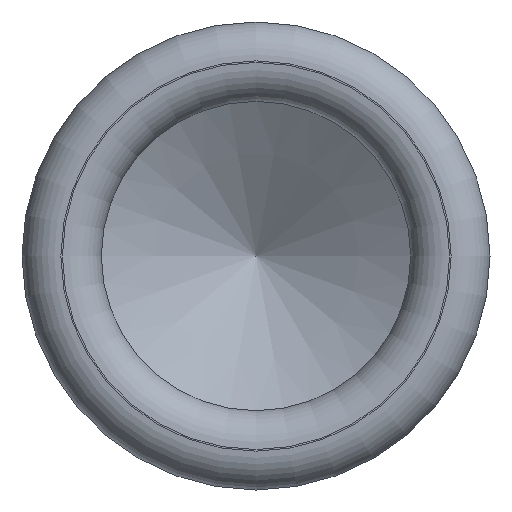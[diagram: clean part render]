
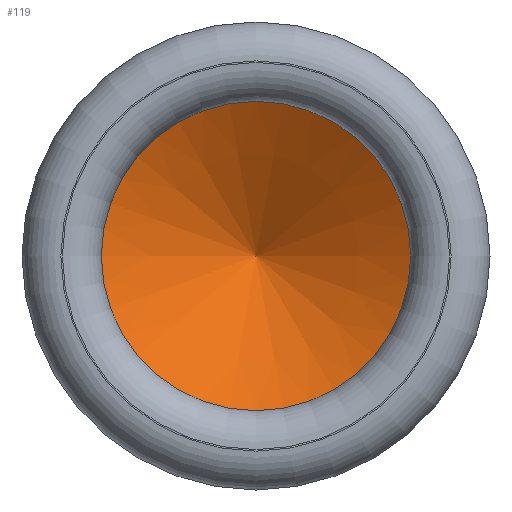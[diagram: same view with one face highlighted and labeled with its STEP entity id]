
A CAD part, left-side view. The second image highlights one B-rep face of the part: STEP entity #119.
In plain terms, the highlighted conical face has half-angle 59 degrees and reference radius 0.378 mm.
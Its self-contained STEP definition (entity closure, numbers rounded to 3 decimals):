
#13=CONICAL_SURFACE($,#139,0.378,59.);
#36=FACE_OUTER_BOUND($,#51,.T.);
#51=EDGE_LOOP($,(#101));
#64=CIRCLE($,#134,0.756);
#74=VERTEX_POINT($,#203);
#84=EDGE_CURVE($,#74,#74,#64,.T.);
#101=ORIENTED_EDGE($,*,*,#84,.T.);
#119=ADVANCED_FACE($,(#36),#13,.F.);
#134=AXIS2_PLACEMENT_3D($,#204,#163,#164);
#139=AXIS2_PLACEMENT_3D($,#211,#173,#174);
#163=DIRECTION('center_axis',(-1.,0.,0.));
#164=DIRECTION('ref_axis',(0.,-1.,0.));
#173=DIRECTION('center_axis',(-1.,0.,0.));
#174=DIRECTION('ref_axis',(0.,-1.,0.));
#203=CARTESIAN_POINT('',(5.,-0.756,0.));
#204=CARTESIAN_POINT('Origin',(5.,0.,0.));
#211=CARTESIAN_POINT('Origin',(5.227,0.,0.));
